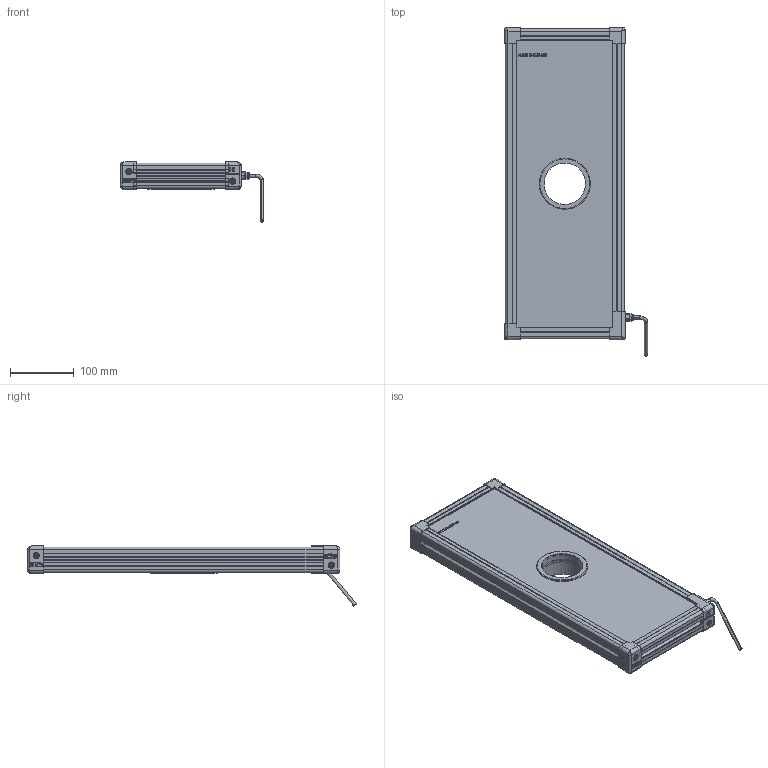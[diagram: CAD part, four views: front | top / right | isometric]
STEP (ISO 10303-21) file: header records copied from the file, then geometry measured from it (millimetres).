
FILE_DESCRIPTION (( 'STEP AP214' ), '1' );
FILE_NAME ('EFFI-FD-150-450-ZZZ-1M12.STEP', '2021-06-23T09:05:19', ( '' ), ( '' ), 'SwSTEP 2.0', 'SolidWorks 2021', '' );
FILE_SCHEMA (( 'AUTOMOTIVE_DESIGN' ));
Length unit declared in the file: millimetre
Products named in the file (13): 000629; petite joue; EFFI-FD-150-450-ZZZ-1M12; 004408; profile X_PERCE; cordon_Avec cable; profile Y_PERCE; petite joue + vis; 004409; Assemblage Ø65; Pièce13^EFFI-FD-XXX-YYY-ZZZ (1connecteur) Ø65; 000590; grande joue
Assembly tree (21 placements, depth 3):
  EFFI-FD-150-450-ZZZ-1M12
    profile X_PERCE  x2
    profile Y_PERCE  x2
    Pièce13^EFFI-FD-XXX-YYY-ZZZ (1connecteur) Ø65
    petite joue + vis  x3
      petite joue
      000629
    000629  x2
    grande joue
    Assemblage Ø65
      004408
      004409
      000590  x3
    cordon_Avec cable
Bounding box: 224.15 x 514.73 x 94.09 mm (x, y, z)
Volume: 3070257.8 mm3; surface area: 429975.9 mm2
Topology: 22 solids, 28 shells, 3845 faces, 10219 edges, 6706 vertices
Faces by surface type: plane 2372, cylinder 726, bspline 552, cone 152, torus 35, sphere 8
Entity records: 73011 total; most frequent: CARTESIAN_POINT 28463, ORIENTED_EDGE 9328, DIRECTION 7777, EDGE_CURVE 4668, LINE 3489, VECTOR 3489, VERTEX_POINT 3077, AXIS2_PLACEMENT_3D 2144
